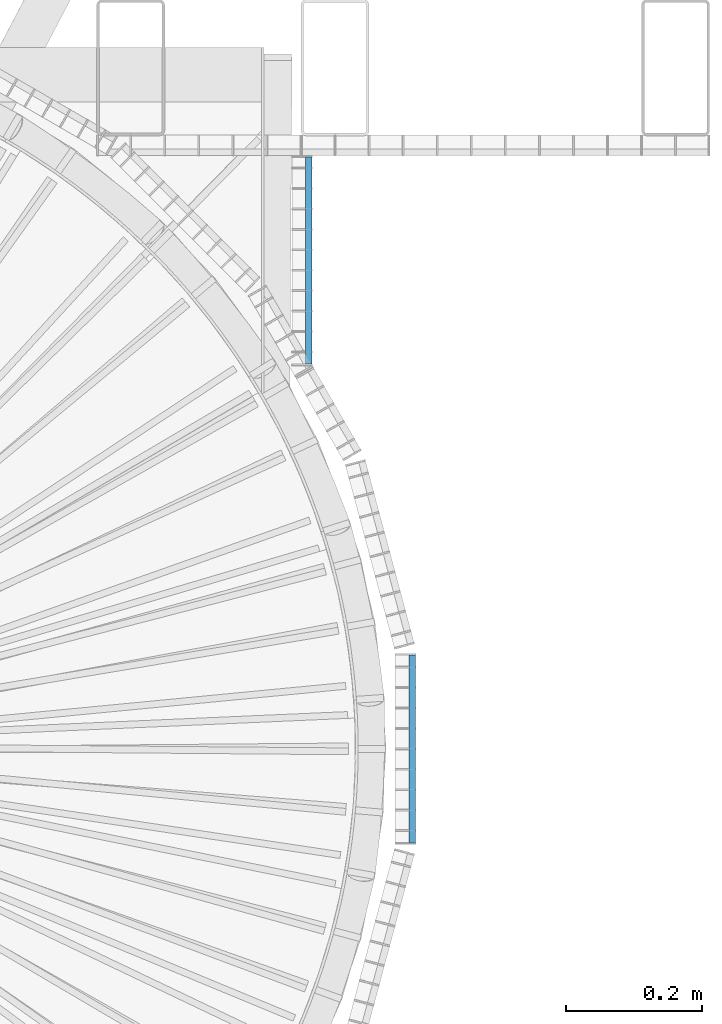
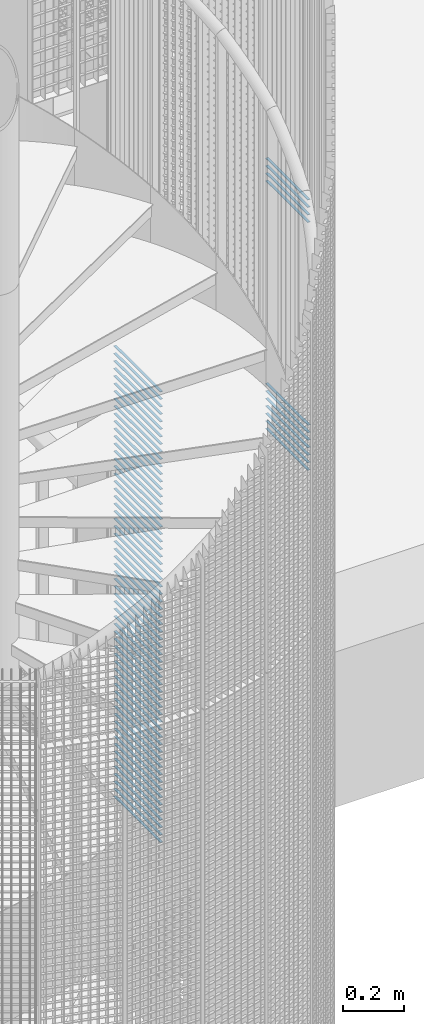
# One storey, part 279 of 1148: 72 beams, 2 elements without a shape of their own.
"""IFC2X3 building model written with IfcOpenShell, lengths in millimetres."""

from ifc_helpers import new_model, si_unit, frame, origin_with_axes, origin_2d_with_axis, place, context, subcontext, project, spatial, rectangle, extrude, material, type_object, element, aggregate, save


model = new_model("IFC2X3")

# Units and contexts
model_context = context("Model", 3, precision=1e-05, world=origin_with_axes())
body_context = subcontext(model_context, "Body", "Model", "MODEL_VIEW")
ifc_project = project(units=[si_unit("LENGTHUNIT", "METRE", prefix="MILLI"), si_unit("AREAUNIT", "SQUARE_METRE"), si_unit("VOLUMEUNIT", "CUBIC_METRE"), si_unit("MASSUNIT", "GRAM", prefix="KILO"), si_unit("TIMEUNIT", "SECOND"), si_unit("PLANEANGLEUNIT", "RADIAN"), si_unit("SOLIDANGLEUNIT", "STERADIAN"), si_unit("THERMODYNAMICTEMPERATUREUNIT", "DEGREE_CELSIUS"), si_unit("LUMINOUSINTENSITYUNIT", "LUMEN")], contexts=[model_context])

# Site, building, storey
site_placement = place(None, origin_with_axes())
site = spatial("IfcSite", under=ifc_project, at=site_placement, Name="Undefined", CompositionType="ELEMENT")
building_placement = place(site_placement, origin_with_axes())
building = spatial("IfcBuilding", under=site, at=building_placement, Name="Undefined", CompositionType="ELEMENT")
storey_placement = place(building_placement, origin_with_axes())
storey = spatial("IfcBuildingStorey", under=building, at=storey_placement, Name="Undefined", CompositionType="ELEMENT", Elevation=0.0)

# Assembly, beams
assembly_1_placement = place(storey_placement, origin_with_axes())
assembly_1 = element("IfcElementAssembly", 1, at=assembly_1_placement, inside=storey, Name="BORDURE", AssemblyPlace="NOTDEFINED", PredefinedType="NOTDEFINED")
ifc_material = material(Name="STEEL/S235JR")
beam_type = type_object("IfcBeamType", Name="PL2*10", PredefinedType="NOTDEFINED")
beam_1_placement = place(assembly_1_placement, frame((1113.47999999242, -137.996003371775, 10020.0), z_axis=(1.0, 0.0, 0.0), x_axis=(0.0, 1.0, 0.0)))
beam_1 = element("IfcBeam", 2, at=beam_1_placement, type_object=beam_type, material=ifc_material, Name="ENTRETOISE", context=body_context, shape_type="SweptSolid", body=[
    extrude(rectangle(XDim=2.0, YDim=10.0, at=origin_2d_with_axis()), frame((275.999999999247, 9.09494701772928e-13, 1.53210777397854e-14), z_axis=(-1.0, 0.0, 0.0), x_axis=(0.0, -1.0, 0.0)), (0.0, 0.0, 1.0), 276.0),
])
beam_2_placement = place(assembly_1_placement, frame((1113.47999999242, -137.996003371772, 9210.0), z_axis=(1.0, 0.0, 0.0), x_axis=(0.0, 1.0, 0.0)))
beam_2 = element("IfcBeam", 3, at=beam_2_placement, type_object=beam_type, material=ifc_material, Name="ENTRETOISE", context=body_context, shape_type="SweptSolid", body=[
    extrude(rectangle(XDim=2.0, YDim=10.0, at=origin_2d_with_axis()), frame((275.999999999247, 9.09494701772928e-13, 1.53210777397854e-14), z_axis=(-1.0, 0.0, 0.0), x_axis=(0.0, -1.0, 0.0)), (0.0, 0.0, 1.0), 276.0),
])
beam_3_placement = place(assembly_1_placement, frame((1113.47999999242, -137.996003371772, 9180.0), z_axis=(1.0, 0.0, 0.0), x_axis=(0.0, 1.0, 0.0)))
beam_3 = element("IfcBeam", 4, at=beam_3_placement, type_object=beam_type, material=ifc_material, Name="ENTRETOISE", context=body_context, shape_type="SweptSolid", body=[
    extrude(rectangle(XDim=2.0, YDim=10.0, at=origin_2d_with_axis()), frame((275.999999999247, 9.09494701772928e-13, 1.53210777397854e-14), z_axis=(-1.0, 0.0, 0.0), x_axis=(0.0, -1.0, 0.0)), (0.0, 0.0, 1.0), 276.0),
])
beam_4_placement = place(assembly_1_placement, frame((1113.47999999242, -137.996003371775, 10050.0), z_axis=(1.0, 0.0, 0.0), x_axis=(0.0, 1.0, 0.0)))
beam_4 = element("IfcBeam", 5, at=beam_4_placement, type_object=beam_type, material=ifc_material, Name="ENTRETOISE", context=body_context, shape_type="SweptSolid", body=[
    extrude(rectangle(XDim=2.0, YDim=10.0, at=origin_2d_with_axis()), frame((275.999999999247, 9.09494701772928e-13, 1.53210777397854e-14), z_axis=(-1.0, 0.0, 0.0), x_axis=(0.0, -1.0, 0.0)), (0.0, 0.0, 1.0), 276.0),
])
beam_5_placement = place(assembly_1_placement, frame((1113.47999999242, -137.996003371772, 9150.0), z_axis=(1.0, 0.0, 0.0), x_axis=(0.0, 1.0, 0.0)))
beam_5 = element("IfcBeam", 6, at=beam_5_placement, type_object=beam_type, material=ifc_material, Name="ENTRETOISE", context=body_context, shape_type="SweptSolid", body=[
    extrude(rectangle(XDim=2.0, YDim=10.0, at=origin_2d_with_axis()), frame((275.999999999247, 9.09494701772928e-13, 1.53210777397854e-14), z_axis=(-1.0, 0.0, 0.0), x_axis=(0.0, -1.0, 0.0)), (0.0, 0.0, 1.0), 276.0),
])
beam_6_placement = place(assembly_1_placement, frame((1113.47999999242, -137.996003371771, 9120.0), z_axis=(1.0, 0.0, 0.0), x_axis=(0.0, 1.0, 0.0)))
beam_6 = element("IfcBeam", 7, at=beam_6_placement, type_object=beam_type, material=ifc_material, Name="ENTRETOISE", context=body_context, shape_type="SweptSolid", body=[
    extrude(rectangle(XDim=2.0, YDim=10.0, at=origin_2d_with_axis()), frame((275.999999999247, 9.09494701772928e-13, 1.53210777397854e-14), z_axis=(-1.0, 0.0, 0.0), x_axis=(0.0, -1.0, 0.0)), (0.0, 0.0, 1.0), 276.0),
])
beam_7_placement = place(assembly_1_placement, frame((1113.47999999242, -137.996003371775, 10080.0), z_axis=(1.0, 0.0, 0.0), x_axis=(0.0, 1.0, 0.0)))
beam_7 = element("IfcBeam", 8, at=beam_7_placement, type_object=beam_type, material=ifc_material, Name="ENTRETOISE", context=body_context, shape_type="SweptSolid", body=[
    extrude(rectangle(XDim=2.0, YDim=10.0, at=origin_2d_with_axis()), frame((275.999999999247, 9.09494701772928e-13, 1.53210777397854e-14), z_axis=(-1.0, 0.0, 0.0), x_axis=(0.0, -1.0, 0.0)), (0.0, 0.0, 1.0), 276.0),
])
beam_8_placement = place(assembly_1_placement, frame((1113.47999999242, -137.996003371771, 9090.0), z_axis=(1.0, 0.0, 0.0), x_axis=(0.0, 1.0, 0.0)))
beam_8 = element("IfcBeam", 9, at=beam_8_placement, type_object=beam_type, material=ifc_material, Name="ENTRETOISE", context=body_context, shape_type="SweptSolid", body=[
    extrude(rectangle(XDim=2.0, YDim=10.0, at=origin_2d_with_axis()), frame((275.999999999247, 9.09494701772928e-13, 1.53210777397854e-14), z_axis=(-1.0, 0.0, 0.0), x_axis=(0.0, -1.0, 0.0)), (0.0, 0.0, 1.0), 276.0),
])
beam_9_placement = place(assembly_1_placement, frame((1113.47999999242, -137.996003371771, 9060.0), z_axis=(1.0, 0.0, 0.0), x_axis=(0.0, 1.0, 0.0)))
beam_9 = element("IfcBeam", 10, at=beam_9_placement, type_object=beam_type, material=ifc_material, Name="ENTRETOISE", context=body_context, shape_type="SweptSolid", body=[
    extrude(rectangle(XDim=2.0, YDim=10.0, at=origin_2d_with_axis()), frame((275.999999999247, 9.09494701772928e-13, 1.53210777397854e-14), z_axis=(-1.0, 0.0, 0.0), x_axis=(0.0, -1.0, 0.0)), (0.0, 0.0, 1.0), 276.0),
])
beam_10_placement = place(assembly_1_placement, frame((1113.47999999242, -137.996003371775, 10110.0), z_axis=(1.0, 0.0, 0.0), x_axis=(0.0, 1.0, 0.0)))
beam_10 = element("IfcBeam", 11, at=beam_10_placement, type_object=beam_type, material=ifc_material, Name="ENTRETOISE", context=body_context, shape_type="SweptSolid", body=[
    extrude(rectangle(XDim=2.0, YDim=10.0, at=origin_2d_with_axis()), frame((275.999999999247, 9.09494701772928e-13, 1.53210777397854e-14), z_axis=(-1.0, 0.0, 0.0), x_axis=(0.0, -1.0, 0.0)), (0.0, 0.0, 1.0), 276.0),
])
beam_11_placement = place(assembly_1_placement, frame((1113.47999999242, -137.99600337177, 9030.0), z_axis=(1.0, 0.0, 0.0), x_axis=(0.0, 1.0, 0.0)))
beam_11 = element("IfcBeam", 12, at=beam_11_placement, type_object=beam_type, material=ifc_material, Name="ENTRETOISE", context=body_context, shape_type="SweptSolid", body=[
    extrude(rectangle(XDim=2.0, YDim=10.0, at=origin_2d_with_axis()), frame((275.999999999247, 9.09494701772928e-13, 1.53210777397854e-14), z_axis=(-1.0, 0.0, 0.0), x_axis=(0.0, -1.0, 0.0)), (0.0, 0.0, 1.0), 276.0),
])
aggregate(assembly_1, [beam_1, beam_2, beam_3, beam_4, beam_5, beam_6, beam_7, beam_8, beam_9, beam_10, beam_11])

assembly_2_placement = place(storey_placement, origin_with_axes())
assembly_2 = element("IfcElementAssembly", 13, at=assembly_2_placement, inside=storey, Name="BORDURE", AssemblyPlace="NOTDEFINED", PredefinedType="NOTDEFINED")
beam_12_placement = place(assembly_2_placement, frame((961.586915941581, 564.78266928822, 8970.0), z_axis=(1.0, 0.0, 0.0), x_axis=(0.0, 1.0, 0.0)))
beam_12 = element("IfcBeam", 14, at=beam_12_placement, type_object=beam_type, material=ifc_material, Name="ENTRETOISE", context=body_context, shape_type="SweptSolid", body=[
    extrude(rectangle(XDim=2.0, YDim=10.0, at=origin_2d_with_axis()), frame((303.999999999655, 0.0, 0.0), z_axis=(-1.0, 0.0, 0.0), x_axis=(0.0, -1.0, 0.0)), (0.0, 0.0, 1.0), 304.0),
])
beam_13_placement = place(assembly_2_placement, frame((961.586915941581, 564.78266928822, 8940.0), z_axis=(1.0, 0.0, 0.0), x_axis=(0.0, 1.0, 0.0)))
beam_13 = element("IfcBeam", 15, at=beam_13_placement, type_object=beam_type, material=ifc_material, Name="ENTRETOISE", context=body_context, shape_type="SweptSolid", body=[
    extrude(rectangle(XDim=2.0, YDim=10.0, at=origin_2d_with_axis()), frame((303.999999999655, 0.0, 0.0), z_axis=(-1.0, 0.0, 0.0), x_axis=(0.0, -1.0, 0.0)), (0.0, 0.0, 1.0), 304.0),
])
beam_14_placement = place(assembly_2_placement, frame((961.586915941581, 564.78266928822, 8910.0), z_axis=(1.0, 0.0, 0.0), x_axis=(0.0, 1.0, 0.0)))
beam_14 = element("IfcBeam", 16, at=beam_14_placement, type_object=beam_type, material=ifc_material, Name="ENTRETOISE", context=body_context, shape_type="SweptSolid", body=[
    extrude(rectangle(XDim=2.0, YDim=10.0, at=origin_2d_with_axis()), frame((303.999999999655, 0.0, 0.0), z_axis=(-1.0, 0.0, 0.0), x_axis=(0.0, -1.0, 0.0)), (0.0, 0.0, 1.0), 304.0),
])
beam_15_placement = place(assembly_2_placement, frame((961.586915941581, 564.782669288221, 8880.0), z_axis=(1.0, 0.0, 0.0), x_axis=(0.0, 1.0, 0.0)))
beam_15 = element("IfcBeam", 17, at=beam_15_placement, type_object=beam_type, material=ifc_material, Name="ENTRETOISE", context=body_context, shape_type="SweptSolid", body=[
    extrude(rectangle(XDim=2.0, YDim=10.0, at=origin_2d_with_axis()), frame((303.999999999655, 0.0, 0.0), z_axis=(-1.0, 0.0, 0.0), x_axis=(0.0, -1.0, 0.0)), (0.0, 0.0, 1.0), 304.0),
])
beam_16_placement = place(assembly_2_placement, frame((961.586915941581, 564.78266928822, 8850.0), z_axis=(1.0, 0.0, 0.0), x_axis=(0.0, 1.0, 0.0)))
beam_16 = element("IfcBeam", 18, at=beam_16_placement, type_object=beam_type, material=ifc_material, Name="ENTRETOISE", context=body_context, shape_type="SweptSolid", body=[
    extrude(rectangle(XDim=2.0, YDim=10.0, at=origin_2d_with_axis()), frame((303.999999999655, 0.0, 0.0), z_axis=(-1.0, 0.0, 0.0), x_axis=(0.0, -1.0, 0.0)), (0.0, 0.0, 1.0), 304.0),
])
beam_17_placement = place(assembly_2_placement, frame((961.586915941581, 564.78266928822, 8820.0), z_axis=(1.0, 0.0, 0.0), x_axis=(0.0, 1.0, 0.0)))
beam_17 = element("IfcBeam", 19, at=beam_17_placement, type_object=beam_type, material=ifc_material, Name="ENTRETOISE", context=body_context, shape_type="SweptSolid", body=[
    extrude(rectangle(XDim=2.0, YDim=10.0, at=origin_2d_with_axis()), frame((303.999999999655, 0.0, 0.0), z_axis=(-1.0, 0.0, 0.0), x_axis=(0.0, -1.0, 0.0)), (0.0, 0.0, 1.0), 304.0),
])
beam_18_placement = place(assembly_2_placement, frame((961.586915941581, 564.782669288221, 8790.0), z_axis=(1.0, 0.0, 0.0), x_axis=(0.0, 1.0, 0.0)))
beam_18 = element("IfcBeam", 20, at=beam_18_placement, type_object=beam_type, material=ifc_material, Name="ENTRETOISE", context=body_context, shape_type="SweptSolid", body=[
    extrude(rectangle(XDim=2.0, YDim=10.0, at=origin_2d_with_axis()), frame((303.999999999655, 0.0, 0.0), z_axis=(-1.0, 0.0, 0.0), x_axis=(0.0, -1.0, 0.0)), (0.0, 0.0, 1.0), 304.0),
])
beam_19_placement = place(assembly_2_placement, frame((961.586915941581, 564.782669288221, 8760.0), z_axis=(1.0, 0.0, 0.0), x_axis=(0.0, 1.0, 0.0)))
beam_19 = element("IfcBeam", 21, at=beam_19_placement, type_object=beam_type, material=ifc_material, Name="ENTRETOISE", context=body_context, shape_type="SweptSolid", body=[
    extrude(rectangle(XDim=2.0, YDim=10.0, at=origin_2d_with_axis()), frame((303.999999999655, 0.0, 0.0), z_axis=(-1.0, 0.0, 0.0), x_axis=(0.0, -1.0, 0.0)), (0.0, 0.0, 1.0), 304.0),
])
beam_20_placement = place(assembly_2_placement, frame((961.586915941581, 564.782669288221, 8730.0), z_axis=(1.0, 0.0, 0.0), x_axis=(0.0, 1.0, 0.0)))
beam_20 = element("IfcBeam", 22, at=beam_20_placement, type_object=beam_type, material=ifc_material, Name="ENTRETOISE", context=body_context, shape_type="SweptSolid", body=[
    extrude(rectangle(XDim=2.0, YDim=10.0, at=origin_2d_with_axis()), frame((303.999999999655, 0.0, 0.0), z_axis=(-1.0, 0.0, 0.0), x_axis=(0.0, -1.0, 0.0)), (0.0, 0.0, 1.0), 304.0),
])
beam_21_placement = place(assembly_2_placement, frame((961.586915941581, 564.782669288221, 8700.0), z_axis=(1.0, 0.0, 0.0), x_axis=(0.0, 1.0, 0.0)))
beam_21 = element("IfcBeam", 23, at=beam_21_placement, type_object=beam_type, material=ifc_material, Name="ENTRETOISE", context=body_context, shape_type="SweptSolid", body=[
    extrude(rectangle(XDim=2.0, YDim=10.0, at=origin_2d_with_axis()), frame((303.999999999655, 0.0, 0.0), z_axis=(-1.0, 0.0, 0.0), x_axis=(0.0, -1.0, 0.0)), (0.0, 0.0, 1.0), 304.0),
])
beam_22_placement = place(assembly_2_placement, frame((961.586915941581, 564.782669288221, 8670.0), z_axis=(1.0, 0.0, 0.0), x_axis=(0.0, 1.0, 0.0)))
beam_22 = element("IfcBeam", 24, at=beam_22_placement, type_object=beam_type, material=ifc_material, Name="ENTRETOISE", context=body_context, shape_type="SweptSolid", body=[
    extrude(rectangle(XDim=2.0, YDim=10.0, at=origin_2d_with_axis()), frame((303.999999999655, 0.0, 0.0), z_axis=(-1.0, 0.0, 0.0), x_axis=(0.0, -1.0, 0.0)), (0.0, 0.0, 1.0), 304.0),
])
beam_23_placement = place(assembly_2_placement, frame((961.586915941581, 564.782669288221, 8640.0), z_axis=(1.0, 0.0, 0.0), x_axis=(0.0, 1.0, 0.0)))
beam_23 = element("IfcBeam", 25, at=beam_23_placement, type_object=beam_type, material=ifc_material, Name="ENTRETOISE", context=body_context, shape_type="SweptSolid", body=[
    extrude(rectangle(XDim=2.0, YDim=10.0, at=origin_2d_with_axis()), frame((303.999999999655, 0.0, 0.0), z_axis=(-1.0, 0.0, 0.0), x_axis=(0.0, -1.0, 0.0)), (0.0, 0.0, 1.0), 304.0),
])
beam_24_placement = place(assembly_2_placement, frame((961.586915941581, 564.782669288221, 8610.0), z_axis=(1.0, 0.0, 0.0), x_axis=(0.0, 1.0, 0.0)))
beam_24 = element("IfcBeam", 26, at=beam_24_placement, type_object=beam_type, material=ifc_material, Name="ENTRETOISE", context=body_context, shape_type="SweptSolid", body=[
    extrude(rectangle(XDim=2.0, YDim=10.0, at=origin_2d_with_axis()), frame((303.999999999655, 0.0, 0.0), z_axis=(-1.0, 0.0, 0.0), x_axis=(0.0, -1.0, 0.0)), (0.0, 0.0, 1.0), 304.0),
])
beam_25_placement = place(assembly_2_placement, frame((961.586915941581, 564.782669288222, 8580.0), z_axis=(1.0, 0.0, 0.0), x_axis=(0.0, 1.0, 0.0)))
beam_25 = element("IfcBeam", 27, at=beam_25_placement, type_object=beam_type, material=ifc_material, Name="ENTRETOISE", context=body_context, shape_type="SweptSolid", body=[
    extrude(rectangle(XDim=2.0, YDim=10.0, at=origin_2d_with_axis()), frame((303.999999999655, 0.0, 0.0), z_axis=(-1.0, 0.0, 0.0), x_axis=(0.0, -1.0, 0.0)), (0.0, 0.0, 1.0), 304.0),
])
beam_26_placement = place(assembly_2_placement, frame((961.586915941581, 564.782669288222, 8550.0), z_axis=(1.0, 0.0, 0.0), x_axis=(0.0, 1.0, 0.0)))
beam_26 = element("IfcBeam", 28, at=beam_26_placement, type_object=beam_type, material=ifc_material, Name="ENTRETOISE", context=body_context, shape_type="SweptSolid", body=[
    extrude(rectangle(XDim=2.0, YDim=10.0, at=origin_2d_with_axis()), frame((303.999999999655, 0.0, 0.0), z_axis=(-1.0, 0.0, 0.0), x_axis=(0.0, -1.0, 0.0)), (0.0, 0.0, 1.0), 304.0),
])
beam_27_placement = place(assembly_2_placement, frame((961.586915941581, 564.782669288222, 8520.0), z_axis=(1.0, 0.0, 0.0), x_axis=(0.0, 1.0, 0.0)))
beam_27 = element("IfcBeam", 29, at=beam_27_placement, type_object=beam_type, material=ifc_material, Name="ENTRETOISE", context=body_context, shape_type="SweptSolid", body=[
    extrude(rectangle(XDim=2.0, YDim=10.0, at=origin_2d_with_axis()), frame((303.999999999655, 0.0, 0.0), z_axis=(-1.0, 0.0, 0.0), x_axis=(0.0, -1.0, 0.0)), (0.0, 0.0, 1.0), 304.0),
])
beam_28_placement = place(assembly_2_placement, frame((961.586915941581, 564.782669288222, 8490.0), z_axis=(1.0, 0.0, 0.0), x_axis=(0.0, 1.0, 0.0)))
beam_28 = element("IfcBeam", 30, at=beam_28_placement, type_object=beam_type, material=ifc_material, Name="ENTRETOISE", context=body_context, shape_type="SweptSolid", body=[
    extrude(rectangle(XDim=2.0, YDim=10.0, at=origin_2d_with_axis()), frame((303.999999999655, 0.0, 0.0), z_axis=(-1.0, 0.0, 0.0), x_axis=(0.0, -1.0, 0.0)), (0.0, 0.0, 1.0), 304.0),
])
beam_29_placement = place(assembly_2_placement, frame((961.586915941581, 564.782669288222, 8460.0), z_axis=(1.0, 0.0, 0.0), x_axis=(0.0, 1.0, 0.0)))
beam_29 = element("IfcBeam", 31, at=beam_29_placement, type_object=beam_type, material=ifc_material, Name="ENTRETOISE", context=body_context, shape_type="SweptSolid", body=[
    extrude(rectangle(XDim=2.0, YDim=10.0, at=origin_2d_with_axis()), frame((303.999999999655, 0.0, 0.0), z_axis=(-1.0, 0.0, 0.0), x_axis=(0.0, -1.0, 0.0)), (0.0, 0.0, 1.0), 304.0),
])
beam_30_placement = place(assembly_2_placement, frame((961.586915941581, 564.782669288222, 8430.0), z_axis=(1.0, 0.0, 0.0), x_axis=(0.0, 1.0, 0.0)))
beam_30 = element("IfcBeam", 32, at=beam_30_placement, type_object=beam_type, material=ifc_material, Name="ENTRETOISE", context=body_context, shape_type="SweptSolid", body=[
    extrude(rectangle(XDim=2.0, YDim=10.0, at=origin_2d_with_axis()), frame((303.999999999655, 0.0, 0.0), z_axis=(-1.0, 0.0, 0.0), x_axis=(0.0, -1.0, 0.0)), (0.0, 0.0, 1.0), 304.0),
])
beam_31_placement = place(assembly_2_placement, frame((961.586915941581, 564.782669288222, 8400.0), z_axis=(1.0, 0.0, 0.0), x_axis=(0.0, 1.0, 0.0)))
beam_31 = element("IfcBeam", 33, at=beam_31_placement, type_object=beam_type, material=ifc_material, Name="ENTRETOISE", context=body_context, shape_type="SweptSolid", body=[
    extrude(rectangle(XDim=2.0, YDim=10.0, at=origin_2d_with_axis()), frame((303.999999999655, 0.0, 0.0), z_axis=(-1.0, 0.0, 0.0), x_axis=(0.0, -1.0, 0.0)), (0.0, 0.0, 1.0), 304.0),
])
beam_32_placement = place(assembly_2_placement, frame((961.586915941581, 564.782669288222, 8370.0), z_axis=(1.0, 0.0, 0.0), x_axis=(0.0, 1.0, 0.0)))
beam_32 = element("IfcBeam", 34, at=beam_32_placement, type_object=beam_type, material=ifc_material, Name="ENTRETOISE", context=body_context, shape_type="SweptSolid", body=[
    extrude(rectangle(XDim=2.0, YDim=10.0, at=origin_2d_with_axis()), frame((303.999999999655, 0.0, 0.0), z_axis=(-1.0, 0.0, 0.0), x_axis=(0.0, -1.0, 0.0)), (0.0, 0.0, 1.0), 304.0),
])
beam_33_placement = place(assembly_2_placement, frame((961.586915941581, 564.782669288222, 8340.0), z_axis=(1.0, 0.0, 0.0), x_axis=(0.0, 1.0, 0.0)))
beam_33 = element("IfcBeam", 35, at=beam_33_placement, type_object=beam_type, material=ifc_material, Name="ENTRETOISE", context=body_context, shape_type="SweptSolid", body=[
    extrude(rectangle(XDim=2.0, YDim=10.0, at=origin_2d_with_axis()), frame((303.999999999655, 0.0, 0.0), z_axis=(-1.0, 0.0, 0.0), x_axis=(0.0, -1.0, 0.0)), (0.0, 0.0, 1.0), 304.0),
])
beam_34_placement = place(assembly_2_placement, frame((961.586915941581, 564.782669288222, 8310.0), z_axis=(1.0, 0.0, 0.0), x_axis=(0.0, 1.0, 0.0)))
beam_34 = element("IfcBeam", 36, at=beam_34_placement, type_object=beam_type, material=ifc_material, Name="ENTRETOISE", context=body_context, shape_type="SweptSolid", body=[
    extrude(rectangle(XDim=2.0, YDim=10.0, at=origin_2d_with_axis()), frame((303.999999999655, 0.0, 0.0), z_axis=(-1.0, 0.0, 0.0), x_axis=(0.0, -1.0, 0.0)), (0.0, 0.0, 1.0), 304.0),
])
beam_35_placement = place(assembly_2_placement, frame((961.586915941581, 564.782669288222, 8280.0), z_axis=(1.0, 0.0, 0.0), x_axis=(0.0, 1.0, 0.0)))
beam_35 = element("IfcBeam", 37, at=beam_35_placement, type_object=beam_type, material=ifc_material, Name="ENTRETOISE", context=body_context, shape_type="SweptSolid", body=[
    extrude(rectangle(XDim=2.0, YDim=10.0, at=origin_2d_with_axis()), frame((303.999999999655, 0.0, 0.0), z_axis=(-1.0, 0.0, 0.0), x_axis=(0.0, -1.0, 0.0)), (0.0, 0.0, 1.0), 304.0),
])
beam_36_placement = place(assembly_2_placement, frame((961.586915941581, 564.782669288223, 8250.0), z_axis=(1.0, 0.0, 0.0), x_axis=(0.0, 1.0, 0.0)))
beam_36 = element("IfcBeam", 38, at=beam_36_placement, type_object=beam_type, material=ifc_material, Name="ENTRETOISE", context=body_context, shape_type="SweptSolid", body=[
    extrude(rectangle(XDim=2.0, YDim=10.0, at=origin_2d_with_axis()), frame((303.999999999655, 0.0, 0.0), z_axis=(-1.0, 0.0, 0.0), x_axis=(0.0, -1.0, 0.0)), (0.0, 0.0, 1.0), 304.0),
])
beam_37_placement = place(assembly_2_placement, frame((961.586915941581, 564.782669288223, 8220.0), z_axis=(1.0, 0.0, 0.0), x_axis=(0.0, 1.0, 0.0)))
beam_37 = element("IfcBeam", 39, at=beam_37_placement, type_object=beam_type, material=ifc_material, Name="ENTRETOISE", context=body_context, shape_type="SweptSolid", body=[
    extrude(rectangle(XDim=2.0, YDim=10.0, at=origin_2d_with_axis()), frame((303.999999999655, 0.0, 0.0), z_axis=(-1.0, 0.0, 0.0), x_axis=(0.0, -1.0, 0.0)), (0.0, 0.0, 1.0), 304.0),
])
beam_38_placement = place(assembly_2_placement, frame((961.586915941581, 564.782669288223, 8190.0), z_axis=(1.0, 0.0, 0.0), x_axis=(0.0, 1.0, 0.0)))
beam_38 = element("IfcBeam", 40, at=beam_38_placement, type_object=beam_type, material=ifc_material, Name="ENTRETOISE", context=body_context, shape_type="SweptSolid", body=[
    extrude(rectangle(XDim=2.0, YDim=10.0, at=origin_2d_with_axis()), frame((303.999999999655, 0.0, 0.0), z_axis=(-1.0, 0.0, 0.0), x_axis=(0.0, -1.0, 0.0)), (0.0, 0.0, 1.0), 304.0),
])
beam_39_placement = place(assembly_2_placement, frame((961.586915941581, 564.782669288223, 8160.0), z_axis=(1.0, 0.0, 0.0), x_axis=(0.0, 1.0, 0.0)))
beam_39 = element("IfcBeam", 41, at=beam_39_placement, type_object=beam_type, material=ifc_material, Name="ENTRETOISE", context=body_context, shape_type="SweptSolid", body=[
    extrude(rectangle(XDim=2.0, YDim=10.0, at=origin_2d_with_axis()), frame((303.999999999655, 0.0, 0.0), z_axis=(-1.0, 0.0, 0.0), x_axis=(0.0, -1.0, 0.0)), (0.0, 0.0, 1.0), 304.0),
])
beam_40_placement = place(assembly_2_placement, frame((961.586915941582, 564.782669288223, 8130.0), z_axis=(1.0, 0.0, 0.0), x_axis=(0.0, 1.0, 0.0)))
beam_40 = element("IfcBeam", 42, at=beam_40_placement, type_object=beam_type, material=ifc_material, Name="ENTRETOISE", context=body_context, shape_type="SweptSolid", body=[
    extrude(rectangle(XDim=2.0, YDim=10.0, at=origin_2d_with_axis()), frame((303.999999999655, 0.0, 0.0), z_axis=(-1.0, 0.0, 0.0), x_axis=(0.0, -1.0, 0.0)), (0.0, 0.0, 1.0), 304.0),
])
beam_41_placement = place(assembly_2_placement, frame((961.586915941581, 564.782669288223, 8100.0), z_axis=(1.0, 0.0, 0.0), x_axis=(0.0, 1.0, 0.0)))
beam_41 = element("IfcBeam", 43, at=beam_41_placement, type_object=beam_type, material=ifc_material, Name="ENTRETOISE", context=body_context, shape_type="SweptSolid", body=[
    extrude(rectangle(XDim=2.0, YDim=10.0, at=origin_2d_with_axis()), frame((303.999999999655, 0.0, 0.0), z_axis=(-1.0, 0.0, 0.0), x_axis=(0.0, -1.0, 0.0)), (0.0, 0.0, 1.0), 304.0),
])
beam_42_placement = place(assembly_2_placement, frame((961.586915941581, 564.782669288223, 8070.0), z_axis=(1.0, 0.0, 0.0), x_axis=(0.0, 1.0, 0.0)))
beam_42 = element("IfcBeam", 44, at=beam_42_placement, type_object=beam_type, material=ifc_material, Name="ENTRETOISE", context=body_context, shape_type="SweptSolid", body=[
    extrude(rectangle(XDim=2.0, YDim=10.0, at=origin_2d_with_axis()), frame((303.999999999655, 0.0, 0.0), z_axis=(-1.0, 0.0, 0.0), x_axis=(0.0, -1.0, 0.0)), (0.0, 0.0, 1.0), 304.0),
])
beam_43_placement = place(assembly_2_placement, frame((961.586915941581, 564.782669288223, 8040.0), z_axis=(1.0, 0.0, 0.0), x_axis=(0.0, 1.0, 0.0)))
beam_43 = element("IfcBeam", 45, at=beam_43_placement, type_object=beam_type, material=ifc_material, Name="ENTRETOISE", context=body_context, shape_type="SweptSolid", body=[
    extrude(rectangle(XDim=2.0, YDim=10.0, at=origin_2d_with_axis()), frame((303.999999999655, 0.0, 0.0), z_axis=(-1.0, 0.0, 0.0), x_axis=(0.0, -1.0, 0.0)), (0.0, 0.0, 1.0), 304.0),
])
beam_44_placement = place(assembly_2_placement, frame((961.586915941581, 564.782669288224, 8010.0), z_axis=(1.0, 0.0, 0.0), x_axis=(0.0, 1.0, 0.0)))
beam_44 = element("IfcBeam", 46, at=beam_44_placement, type_object=beam_type, material=ifc_material, Name="ENTRETOISE", context=body_context, shape_type="SweptSolid", body=[
    extrude(rectangle(XDim=2.0, YDim=10.0, at=origin_2d_with_axis()), frame((303.999999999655, 0.0, 0.0), z_axis=(-1.0, 0.0, 0.0), x_axis=(0.0, -1.0, 0.0)), (0.0, 0.0, 1.0), 304.0),
])
beam_45_placement = place(assembly_2_placement, frame((961.586915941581, 564.782669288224, 7980.0), z_axis=(1.0, 0.0, 0.0), x_axis=(0.0, 1.0, 0.0)))
beam_45 = element("IfcBeam", 47, at=beam_45_placement, type_object=beam_type, material=ifc_material, Name="ENTRETOISE", context=body_context, shape_type="SweptSolid", body=[
    extrude(rectangle(XDim=2.0, YDim=10.0, at=origin_2d_with_axis()), frame((303.999999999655, 0.0, 0.0), z_axis=(-1.0, 0.0, 0.0), x_axis=(0.0, -1.0, 0.0)), (0.0, 0.0, 1.0), 304.0),
])
beam_46_placement = place(assembly_2_placement, frame((961.586915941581, 564.782669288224, 7950.0), z_axis=(1.0, 0.0, 0.0), x_axis=(0.0, 1.0, 0.0)))
beam_46 = element("IfcBeam", 48, at=beam_46_placement, type_object=beam_type, material=ifc_material, Name="ENTRETOISE", context=body_context, shape_type="SweptSolid", body=[
    extrude(rectangle(XDim=2.0, YDim=10.0, at=origin_2d_with_axis()), frame((303.999999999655, 0.0, 0.0), z_axis=(-1.0, 0.0, 0.0), x_axis=(0.0, -1.0, 0.0)), (0.0, 0.0, 1.0), 304.0),
])
beam_47_placement = place(assembly_2_placement, frame((961.586915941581, 564.782669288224, 7920.0), z_axis=(1.0, 0.0, 0.0), x_axis=(0.0, 1.0, 0.0)))
beam_47 = element("IfcBeam", 49, at=beam_47_placement, type_object=beam_type, material=ifc_material, Name="ENTRETOISE", context=body_context, shape_type="SweptSolid", body=[
    extrude(rectangle(XDim=2.0, YDim=10.0, at=origin_2d_with_axis()), frame((303.999999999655, 0.0, 0.0), z_axis=(-1.0, 0.0, 0.0), x_axis=(0.0, -1.0, 0.0)), (0.0, 0.0, 1.0), 304.0),
])
beam_48_placement = place(assembly_2_placement, frame((961.586915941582, 564.782669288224, 7890.0), z_axis=(1.0, 0.0, 0.0), x_axis=(0.0, 1.0, 0.0)))
beam_48 = element("IfcBeam", 50, at=beam_48_placement, type_object=beam_type, material=ifc_material, Name="ENTRETOISE", context=body_context, shape_type="SweptSolid", body=[
    extrude(rectangle(XDim=2.0, YDim=10.0, at=origin_2d_with_axis()), frame((303.999999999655, 0.0, 0.0), z_axis=(-1.0, 0.0, 0.0), x_axis=(0.0, -1.0, 0.0)), (0.0, 0.0, 1.0), 304.0),
])
beam_49_placement = place(assembly_2_placement, frame((961.586915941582, 564.782669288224, 7860.0), z_axis=(1.0, 0.0, 0.0), x_axis=(0.0, 1.0, 0.0)))
beam_49 = element("IfcBeam", 51, at=beam_49_placement, type_object=beam_type, material=ifc_material, Name="ENTRETOISE", context=body_context, shape_type="SweptSolid", body=[
    extrude(rectangle(XDim=2.0, YDim=10.0, at=origin_2d_with_axis()), frame((303.999999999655, 0.0, 0.0), z_axis=(-1.0, 0.0, 0.0), x_axis=(0.0, -1.0, 0.0)), (0.0, 0.0, 1.0), 304.0),
])
beam_50_placement = place(assembly_2_placement, frame((961.586915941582, 564.782669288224, 7830.0), z_axis=(1.0, 0.0, 0.0), x_axis=(0.0, 1.0, 0.0)))
beam_50 = element("IfcBeam", 52, at=beam_50_placement, type_object=beam_type, material=ifc_material, Name="ENTRETOISE", context=body_context, shape_type="SweptSolid", body=[
    extrude(rectangle(XDim=2.0, YDim=10.0, at=origin_2d_with_axis()), frame((303.999999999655, 0.0, 0.0), z_axis=(-1.0, 0.0, 0.0), x_axis=(0.0, -1.0, 0.0)), (0.0, 0.0, 1.0), 304.0),
])
beam_51_placement = place(assembly_2_placement, frame((961.586915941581, 564.782669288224, 7800.0), z_axis=(1.0, 0.0, 0.0), x_axis=(0.0, 1.0, 0.0)))
beam_51 = element("IfcBeam", 53, at=beam_51_placement, type_object=beam_type, material=ifc_material, Name="ENTRETOISE", context=body_context, shape_type="SweptSolid", body=[
    extrude(rectangle(XDim=2.0, YDim=10.0, at=origin_2d_with_axis()), frame((303.999999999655, 0.0, 0.0), z_axis=(-1.0, 0.0, 0.0), x_axis=(0.0, -1.0, 0.0)), (0.0, 0.0, 1.0), 304.0),
])
beam_52_placement = place(assembly_2_placement, frame((961.586915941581, 564.782669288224, 7770.0), z_axis=(1.0, 0.0, 0.0), x_axis=(0.0, 1.0, 0.0)))
beam_52 = element("IfcBeam", 54, at=beam_52_placement, type_object=beam_type, material=ifc_material, Name="ENTRETOISE", context=body_context, shape_type="SweptSolid", body=[
    extrude(rectangle(XDim=2.0, YDim=10.0, at=origin_2d_with_axis()), frame((303.999999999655, 0.0, 0.0), z_axis=(-1.0, 0.0, 0.0), x_axis=(0.0, -1.0, 0.0)), (0.0, 0.0, 1.0), 304.0),
])
beam_53_placement = place(assembly_2_placement, frame((961.586915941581, 564.782669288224, 7740.0), z_axis=(1.0, 0.0, 0.0), x_axis=(0.0, 1.0, 0.0)))
beam_53 = element("IfcBeam", 55, at=beam_53_placement, type_object=beam_type, material=ifc_material, Name="ENTRETOISE", context=body_context, shape_type="SweptSolid", body=[
    extrude(rectangle(XDim=2.0, YDim=10.0, at=origin_2d_with_axis()), frame((303.999999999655, 0.0, 0.0), z_axis=(-1.0, 0.0, 0.0), x_axis=(0.0, -1.0, 0.0)), (0.0, 0.0, 1.0), 304.0),
])
beam_54_placement = place(assembly_2_placement, frame((961.586915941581, 564.782669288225, 7710.0), z_axis=(1.0, 0.0, 0.0), x_axis=(0.0, 1.0, 0.0)))
beam_54 = element("IfcBeam", 56, at=beam_54_placement, type_object=beam_type, material=ifc_material, Name="ENTRETOISE", context=body_context, shape_type="SweptSolid", body=[
    extrude(rectangle(XDim=2.0, YDim=10.0, at=origin_2d_with_axis()), frame((303.999999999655, 0.0, 0.0), z_axis=(-1.0, 0.0, 0.0), x_axis=(0.0, -1.0, 0.0)), (0.0, 0.0, 1.0), 304.0),
])
beam_55_placement = place(assembly_2_placement, frame((961.586915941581, 564.782669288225, 7680.0), z_axis=(1.0, 0.0, 0.0), x_axis=(0.0, 1.0, 0.0)))
beam_55 = element("IfcBeam", 57, at=beam_55_placement, type_object=beam_type, material=ifc_material, Name="ENTRETOISE", context=body_context, shape_type="SweptSolid", body=[
    extrude(rectangle(XDim=2.0, YDim=10.0, at=origin_2d_with_axis()), frame((303.999999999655, 0.0, 0.0), z_axis=(-1.0, 0.0, 0.0), x_axis=(0.0, -1.0, 0.0)), (0.0, 0.0, 1.0), 304.0),
])
beam_56_placement = place(assembly_2_placement, frame((961.586915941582, 564.782669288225, 7650.0), z_axis=(1.0, 0.0, 0.0), x_axis=(0.0, 1.0, 0.0)))
beam_56 = element("IfcBeam", 58, at=beam_56_placement, type_object=beam_type, material=ifc_material, Name="ENTRETOISE", context=body_context, shape_type="SweptSolid", body=[
    extrude(rectangle(XDim=2.0, YDim=10.0, at=origin_2d_with_axis()), frame((303.999999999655, 0.0, 0.0), z_axis=(-1.0, 0.0, 0.0), x_axis=(0.0, -1.0, 0.0)), (0.0, 0.0, 1.0), 304.0),
])
beam_57_placement = place(assembly_2_placement, frame((961.586915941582, 564.782669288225, 7620.0), z_axis=(1.0, 0.0, 0.0), x_axis=(0.0, 1.0, 0.0)))
beam_57 = element("IfcBeam", 59, at=beam_57_placement, type_object=beam_type, material=ifc_material, Name="ENTRETOISE", context=body_context, shape_type="SweptSolid", body=[
    extrude(rectangle(XDim=2.0, YDim=10.0, at=origin_2d_with_axis()), frame((303.999999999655, 0.0, 0.0), z_axis=(-1.0, 0.0, 0.0), x_axis=(0.0, -1.0, 0.0)), (0.0, 0.0, 1.0), 304.0),
])
beam_58_placement = place(assembly_2_placement, frame((961.586915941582, 564.782669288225, 7590.0), z_axis=(1.0, 0.0, 0.0), x_axis=(0.0, 1.0, 0.0)))
beam_58 = element("IfcBeam", 60, at=beam_58_placement, type_object=beam_type, material=ifc_material, Name="ENTRETOISE", context=body_context, shape_type="SweptSolid", body=[
    extrude(rectangle(XDim=2.0, YDim=10.0, at=origin_2d_with_axis()), frame((303.999999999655, 0.0, 0.0), z_axis=(-1.0, 0.0, 0.0), x_axis=(0.0, -1.0, 0.0)), (0.0, 0.0, 1.0), 304.0),
])
beam_59_placement = place(assembly_2_placement, frame((961.586915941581, 564.782669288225, 7560.0), z_axis=(1.0, 0.0, 0.0), x_axis=(0.0, 1.0, 0.0)))
beam_59 = element("IfcBeam", 61, at=beam_59_placement, type_object=beam_type, material=ifc_material, Name="ENTRETOISE", context=body_context, shape_type="SweptSolid", body=[
    extrude(rectangle(XDim=2.0, YDim=10.0, at=origin_2d_with_axis()), frame((303.999999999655, 0.0, 0.0), z_axis=(-1.0, 0.0, 0.0), x_axis=(0.0, -1.0, 0.0)), (0.0, 0.0, 1.0), 304.0),
])
beam_60_placement = place(assembly_2_placement, frame((961.586915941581, 564.782669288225, 7530.0), z_axis=(1.0, 0.0, 0.0), x_axis=(0.0, 1.0, 0.0)))
beam_60 = element("IfcBeam", 62, at=beam_60_placement, type_object=beam_type, material=ifc_material, Name="ENTRETOISE", context=body_context, shape_type="SweptSolid", body=[
    extrude(rectangle(XDim=2.0, YDim=10.0, at=origin_2d_with_axis()), frame((303.999999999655, 0.0, 0.0), z_axis=(-1.0, 0.0, 0.0), x_axis=(0.0, -1.0, 0.0)), (0.0, 0.0, 1.0), 304.0),
])
beam_61_placement = place(assembly_2_placement, frame((961.586915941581, 564.782669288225, 7500.0), z_axis=(1.0, 0.0, 0.0), x_axis=(0.0, 1.0, 0.0)))
beam_61 = element("IfcBeam", 63, at=beam_61_placement, type_object=beam_type, material=ifc_material, Name="ENTRETOISE", context=body_context, shape_type="SweptSolid", body=[
    extrude(rectangle(XDim=2.0, YDim=10.0, at=origin_2d_with_axis()), frame((303.999999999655, 0.0, 0.0), z_axis=(-1.0, 0.0, 0.0), x_axis=(0.0, -1.0, 0.0)), (0.0, 0.0, 1.0), 304.0),
])
beam_62_placement = place(assembly_2_placement, frame((961.586915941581, 564.782669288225, 7470.0), z_axis=(1.0, 0.0, 0.0), x_axis=(0.0, 1.0, 0.0)))
beam_62 = element("IfcBeam", 64, at=beam_62_placement, type_object=beam_type, material=ifc_material, Name="ENTRETOISE", context=body_context, shape_type="SweptSolid", body=[
    extrude(rectangle(XDim=2.0, YDim=10.0, at=origin_2d_with_axis()), frame((303.999999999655, 0.0, 0.0), z_axis=(-1.0, 0.0, 0.0), x_axis=(0.0, -1.0, 0.0)), (0.0, 0.0, 1.0), 304.0),
])
beam_63_placement = place(assembly_2_placement, frame((961.586915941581, 564.782669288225, 7440.0), z_axis=(1.0, 0.0, 0.0), x_axis=(0.0, 1.0, 0.0)))
beam_63 = element("IfcBeam", 65, at=beam_63_placement, type_object=beam_type, material=ifc_material, Name="ENTRETOISE", context=body_context, shape_type="SweptSolid", body=[
    extrude(rectangle(XDim=2.0, YDim=10.0, at=origin_2d_with_axis()), frame((303.999999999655, 0.0, 0.0), z_axis=(-1.0, 0.0, 0.0), x_axis=(0.0, -1.0, 0.0)), (0.0, 0.0, 1.0), 304.0),
])
beam_64_placement = place(assembly_2_placement, frame((961.586915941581, 564.782669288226, 7410.0), z_axis=(1.0, 0.0, 0.0), x_axis=(0.0, 1.0, 0.0)))
beam_64 = element("IfcBeam", 66, at=beam_64_placement, type_object=beam_type, material=ifc_material, Name="ENTRETOISE", context=body_context, shape_type="SweptSolid", body=[
    extrude(rectangle(XDim=2.0, YDim=10.0, at=origin_2d_with_axis()), frame((303.999999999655, 0.0, 0.0), z_axis=(-1.0, 0.0, 0.0), x_axis=(0.0, -1.0, 0.0)), (0.0, 0.0, 1.0), 304.0),
])
beam_65_placement = place(assembly_2_placement, frame((961.586915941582, 564.782669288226, 7380.0), z_axis=(1.0, 0.0, 0.0), x_axis=(0.0, 1.0, 0.0)))
beam_65 = element("IfcBeam", 67, at=beam_65_placement, type_object=beam_type, material=ifc_material, Name="ENTRETOISE", context=body_context, shape_type="SweptSolid", body=[
    extrude(rectangle(XDim=2.0, YDim=10.0, at=origin_2d_with_axis()), frame((303.999999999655, 0.0, 0.0), z_axis=(-1.0, 0.0, 0.0), x_axis=(0.0, -1.0, 0.0)), (0.0, 0.0, 1.0), 304.0),
])
beam_66_placement = place(assembly_2_placement, frame((961.586915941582, 564.782669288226, 7350.0), z_axis=(1.0, 0.0, 0.0), x_axis=(0.0, 1.0, 0.0)))
beam_66 = element("IfcBeam", 68, at=beam_66_placement, type_object=beam_type, material=ifc_material, Name="ENTRETOISE", context=body_context, shape_type="SweptSolid", body=[
    extrude(rectangle(XDim=2.0, YDim=10.0, at=origin_2d_with_axis()), frame((303.999999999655, 0.0, 0.0), z_axis=(-1.0, 0.0, 0.0), x_axis=(0.0, -1.0, 0.0)), (0.0, 0.0, 1.0), 304.0),
])
beam_67_placement = place(assembly_2_placement, frame((961.586915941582, 564.782669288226, 7320.0), z_axis=(1.0, 0.0, 0.0), x_axis=(0.0, 1.0, 0.0)))
beam_67 = element("IfcBeam", 69, at=beam_67_placement, type_object=beam_type, material=ifc_material, Name="ENTRETOISE", context=body_context, shape_type="SweptSolid", body=[
    extrude(rectangle(XDim=2.0, YDim=10.0, at=origin_2d_with_axis()), frame((303.999999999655, 0.0, 0.0), z_axis=(-1.0, 0.0, 0.0), x_axis=(0.0, -1.0, 0.0)), (0.0, 0.0, 1.0), 304.0),
])
beam_68_placement = place(assembly_2_placement, frame((961.586915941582, 564.782669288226, 7290.0), z_axis=(1.0, 0.0, 0.0), x_axis=(0.0, 1.0, 0.0)))
beam_68 = element("IfcBeam", 70, at=beam_68_placement, type_object=beam_type, material=ifc_material, Name="ENTRETOISE", context=body_context, shape_type="SweptSolid", body=[
    extrude(rectangle(XDim=2.0, YDim=10.0, at=origin_2d_with_axis()), frame((303.999999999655, 0.0, 0.0), z_axis=(-1.0, 0.0, 0.0), x_axis=(0.0, -1.0, 0.0)), (0.0, 0.0, 1.0), 304.0),
])
beam_69_placement = place(assembly_2_placement, frame((961.586915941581, 564.782669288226, 7260.0), z_axis=(1.0, 0.0, 0.0), x_axis=(0.0, 1.0, 0.0)))
beam_69 = element("IfcBeam", 71, at=beam_69_placement, type_object=beam_type, material=ifc_material, Name="ENTRETOISE", context=body_context, shape_type="SweptSolid", body=[
    extrude(rectangle(XDim=2.0, YDim=10.0, at=origin_2d_with_axis()), frame((303.999999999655, 0.0, 0.0), z_axis=(-1.0, 0.0, 0.0), x_axis=(0.0, -1.0, 0.0)), (0.0, 0.0, 1.0), 304.0),
])
beam_70_placement = place(assembly_2_placement, frame((961.586915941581, 564.782669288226, 7230.0), z_axis=(1.0, 0.0, 0.0), x_axis=(0.0, 1.0, 0.0)))
beam_70 = element("IfcBeam", 72, at=beam_70_placement, type_object=beam_type, material=ifc_material, Name="ENTRETOISE", context=body_context, shape_type="SweptSolid", body=[
    extrude(rectangle(XDim=2.0, YDim=10.0, at=origin_2d_with_axis()), frame((303.999999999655, 0.0, 0.0), z_axis=(-1.0, 0.0, 0.0), x_axis=(0.0, -1.0, 0.0)), (0.0, 0.0, 1.0), 304.0),
])
beam_71_placement = place(assembly_2_placement, frame((961.586915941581, 564.782669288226, 7200.0), z_axis=(1.0, 0.0, 0.0), x_axis=(0.0, 1.0, 0.0)))
beam_71 = element("IfcBeam", 73, at=beam_71_placement, type_object=beam_type, material=ifc_material, Name="ENTRETOISE", context=body_context, shape_type="SweptSolid", body=[
    extrude(rectangle(XDim=2.0, YDim=10.0, at=origin_2d_with_axis()), frame((303.999999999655, 0.0, 0.0), z_axis=(-1.0, 0.0, 0.0), x_axis=(0.0, -1.0, 0.0)), (0.0, 0.0, 1.0), 304.0),
])
beam_72_placement = place(assembly_2_placement, frame((961.586915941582, 564.782669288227, 7170.0), z_axis=(1.0, 0.0, 0.0), x_axis=(0.0, 1.0, 0.0)))
beam_72 = element("IfcBeam", 74, at=beam_72_placement, type_object=beam_type, material=ifc_material, Name="ENTRETOISE", context=body_context, shape_type="SweptSolid", body=[
    extrude(rectangle(XDim=2.0, YDim=10.0, at=origin_2d_with_axis()), frame((303.999999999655, 0.0, 0.0), z_axis=(-1.0, 0.0, 0.0), x_axis=(0.0, -1.0, 0.0)), (0.0, 0.0, 1.0), 304.0),
])
aggregate(assembly_2, [beam_12, beam_13, beam_14, beam_15, beam_16, beam_17, beam_18, beam_19, beam_20, beam_21, beam_22, beam_23, beam_24, beam_25, beam_26, beam_27, beam_28, beam_29, beam_30, beam_31, beam_32, beam_33, beam_34, beam_35, beam_36, beam_37, beam_38, beam_39, beam_40, beam_41, beam_42, beam_43, beam_44, beam_45, beam_46, beam_47, beam_48, beam_49, beam_50, beam_51, beam_52, beam_53, beam_54, beam_55, beam_56, beam_57, beam_58, beam_59, beam_60, beam_61, beam_62, beam_63, beam_64, beam_65, beam_66, beam_67, beam_68, beam_69, beam_70, beam_71, beam_72])

save(model, "model.ifc")
